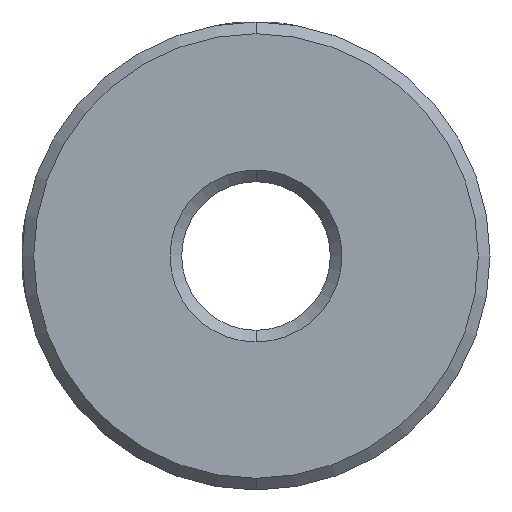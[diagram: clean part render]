
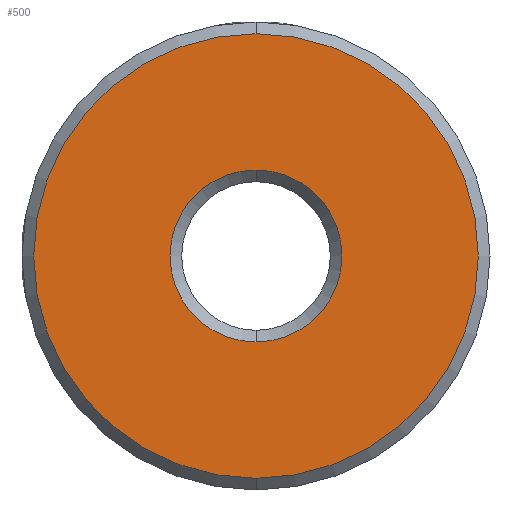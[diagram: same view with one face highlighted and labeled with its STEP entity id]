
A CAD part, front view. The second image highlights one B-rep face of the part: STEP entity #500.
In plain terms, the highlighted planar face has unit normal (0, -1, 0).
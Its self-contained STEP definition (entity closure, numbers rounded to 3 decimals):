
#140 = ORIENTED_EDGE ( 'NONE', *, *, #2535, .T. ) ;
#197 = ORIENTED_EDGE ( 'NONE', *, *, #2759, .T. ) ;
#303 = ORIENTED_EDGE ( 'NONE', *, *, #3139, .T. ) ;
#378 = CIRCLE ( 'NONE', #3308, 3.675 ) ;
#500 = ADVANCED_FACE ( 'NONE', ( #2154, #821 ), #2974, .F. ) ;
#508 = DIRECTION ( 'NONE',  ( 0., 1., 0. ) ) ;
#544 = VERTEX_POINT ( 'NONE', #962 ) ;
#562 = EDGE_CURVE ( 'NONE', #3112, #1496, #1550, .T. ) ;
#688 = DIRECTION ( 'NONE',  ( 0., 0., 1. ) ) ;
#692 = EDGE_LOOP ( 'NONE', ( #303, #2132 ) ) ;
#821 = FACE_BOUND ( 'NONE', #1088, .T. ) ;
#962 = CARTESIAN_POINT ( 'NONE',  ( -10.188, -0.277, -3.629 ) ) ;
#964 = DIRECTION ( 'NONE',  ( 0., -1., 0. ) ) ;
#980 = CARTESIAN_POINT ( 'NONE',  ( -10.188, -0.277, -9.454 ) ) ;
#985 = CARTESIAN_POINT ( 'NONE',  ( -10.188, -0.277, 9.546 ) ) ;
#1003 = DIRECTION ( 'NONE',  ( 0., 1., 0. ) ) ;
#1088 = EDGE_LOOP ( 'NONE', ( #140, #197 ) ) ;
#1120 = DIRECTION ( 'NONE',  ( 0., 0., 1. ) ) ;
#1268 = DIRECTION ( 'NONE',  ( 0., 0., 1. ) ) ;
#1402 = DIRECTION ( 'NONE',  ( 0., 0., 1. ) ) ;
#1496 = VERTEX_POINT ( 'NONE', #985 ) ;
#1516 = CARTESIAN_POINT ( 'NONE',  ( -10.188, -0.277, 0.046 ) ) ;
#1550 = CIRCLE ( 'NONE', #3519, 9.5 ) ;
#1869 = DIRECTION ( 'NONE',  ( 0., 1., 0. ) ) ;
#2132 = ORIENTED_EDGE ( 'NONE', *, *, #562, .T. ) ;
#2133 = DIRECTION ( 'NONE',  ( 0., 0., 1. ) ) ;
#2151 = CARTESIAN_POINT ( 'NONE',  ( -10.188, -0.277, 0.046 ) ) ;
#2154 = FACE_OUTER_BOUND ( 'NONE', #692, .T. ) ;
#2262 = CIRCLE ( 'NONE', #3013, 9.5 ) ;
#2444 = CARTESIAN_POINT ( 'NONE',  ( -10.188, -0.277, 0.046 ) ) ;
#2535 = EDGE_CURVE ( 'NONE', #544, #3276, #3484, .T. ) ;
#2759 = EDGE_CURVE ( 'NONE', #3276, #544, #378, .T. ) ;
#2780 = CARTESIAN_POINT ( 'NONE',  ( -10.188, -0.277, 0.046 ) ) ;
#2797 = AXIS2_PLACEMENT_3D ( 'NONE', #2780, #1869, #1402 ) ;
#2826 = AXIS2_PLACEMENT_3D ( 'NONE', #2444, #508, #2133 ) ;
#2974 = PLANE ( 'NONE',  #2826 ) ;
#3013 = AXIS2_PLACEMENT_3D ( 'NONE', #3167, #964, #688 ) ;
#3019 = CARTESIAN_POINT ( 'NONE',  ( -10.188, -0.277, 3.721 ) ) ;
#3112 = VERTEX_POINT ( 'NONE', #980 ) ;
#3139 = EDGE_CURVE ( 'NONE', #1496, #3112, #2262, .T. ) ;
#3167 = CARTESIAN_POINT ( 'NONE',  ( -10.188, -0.277, 0.046 ) ) ;
#3276 = VERTEX_POINT ( 'NONE', #3019 ) ;
#3308 = AXIS2_PLACEMENT_3D ( 'NONE', #2151, #1003, #1268 ) ;
#3315 = DIRECTION ( 'NONE',  ( 0., -1., 0. ) ) ;
#3484 = CIRCLE ( 'NONE', #2797, 3.675 ) ;
#3519 = AXIS2_PLACEMENT_3D ( 'NONE', #1516, #3315, #1120 ) ;
